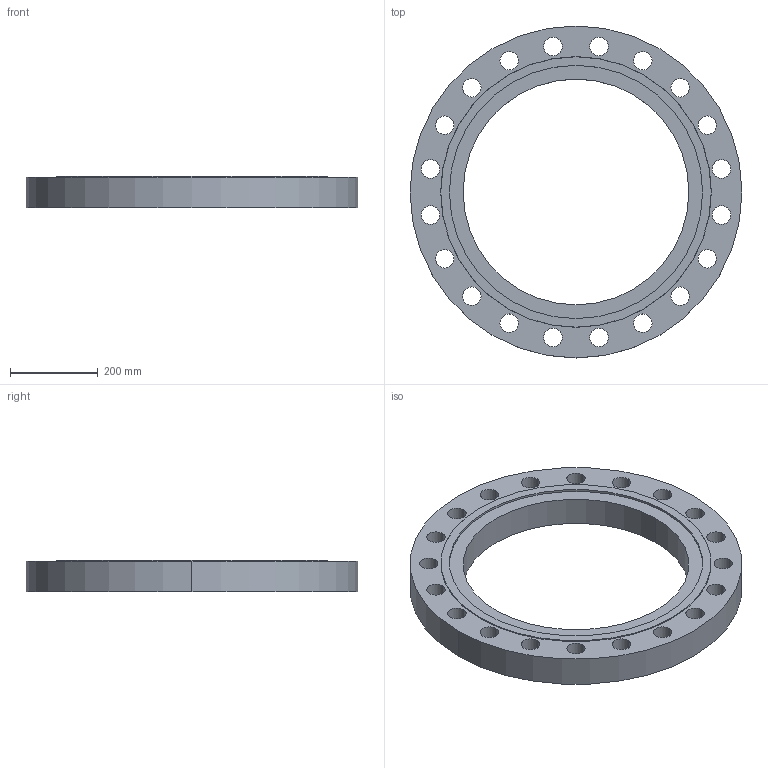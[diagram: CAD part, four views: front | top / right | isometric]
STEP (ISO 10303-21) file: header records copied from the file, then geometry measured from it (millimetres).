
FILE_DESCRIPTION (( 'STEP AP214' ), '1' );
FILE_NAME ('PN40 DN500 Type 01 - Type F Face.STEP', '2018-12-29T01:37:51', ( '' ), ( '' ), 'SwSTEP 2.0', 'SolidWorks 2019', '' );
FILE_SCHEMA (( 'AUTOMOTIVE_DESIGN' ));
Length unit declared in the file: millimetre
Products named in the file (1): PN40 DN500 Type 01 - Type F Face
Bounding box: 755 x 755 x 72 mm (x, y, z)
Volume: 14815654.4 mm3; surface area: 896920.2 mm2
Topology: 1 solids, 1 shells, 52 faces, 144 edges, 96 vertices
Faces by surface type: cylinder 46, plane 4, cone 2
Entity records: 1842 total; most frequent: DIRECTION 346, CARTESIAN_POINT 293, ORIENTED_EDGE 288, AXIS2_PLACEMENT_3D 149, EDGE_CURVE 144, CIRCLE 96, EDGE_LOOP 96, VERTEX_POINT 96
